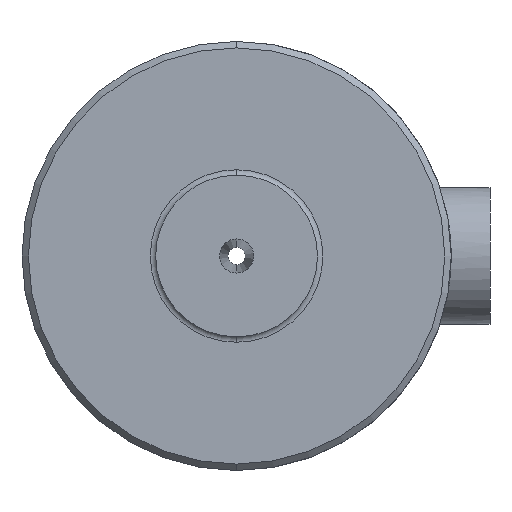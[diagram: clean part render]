
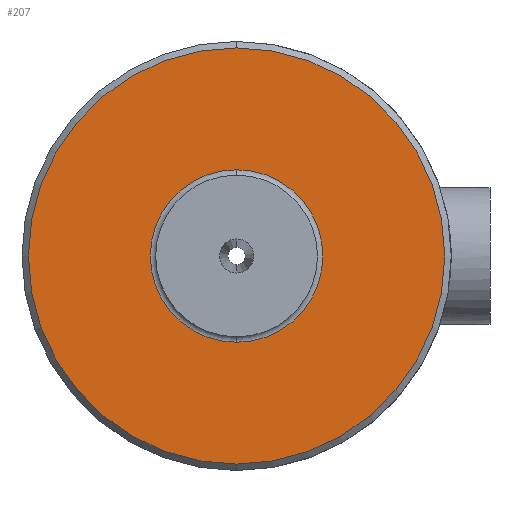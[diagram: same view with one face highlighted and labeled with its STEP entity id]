
A CAD part, front view. The second image highlights one B-rep face of the part: STEP entity #207.
In plain terms, the highlighted planar face has unit normal (0, -1, 0).
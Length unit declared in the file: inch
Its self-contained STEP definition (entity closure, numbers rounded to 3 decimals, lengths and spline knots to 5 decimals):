
#27 = VERTEX_POINT ( 'NONE', #322 ) ;
#42 = EDGE_CURVE ( 'NONE', #45, #27, #363, .T. ) ;
#45 = VERTEX_POINT ( 'NONE', #352 ) ;
#207 = ADVANCED_FACE ( 'NONE', ( #744, #743 ), #742, .T. ) ;
#208 = EDGE_LOOP ( 'NONE', ( #209, #260 ) ) ;
#209 = ORIENTED_EDGE ( 'NONE', *, *, #277, .T. ) ;
#260 = ORIENTED_EDGE ( 'NONE', *, *, #42, .T. ) ;
#261 = EDGE_LOOP ( 'NONE', ( #262, #263 ) ) ;
#262 = ORIENTED_EDGE ( 'NONE', *, *, #1202, .F. ) ;
#263 = ORIENTED_EDGE ( 'NONE', *, *, #264, .F. ) ;
#264 = EDGE_CURVE ( 'NONE', #1210, #1222, #847, .T. ) ;
#277 = EDGE_CURVE ( 'NONE', #27, #45, #827, .T. ) ;
#322 = CARTESIAN_POINT ( 'NONE',  ( 0., -1., 0.4 ) ) ;
#352 = CARTESIAN_POINT ( 'NONE',  ( 0., -1., -0.4 ) ) ;
#359 = DIRECTION ( 'NONE',  ( 0., 0., 1. ) ) ;
#360 = DIRECTION ( 'NONE',  ( 0., 1., 0. ) ) ;
#361 = CARTESIAN_POINT ( 'NONE',  ( 0., -1., 0. ) ) ;
#362 = AXIS2_PLACEMENT_3D ( 'NONE', #361, #360, #359 ) ;
#363 = CIRCLE ( 'NONE', #362, 0.4 ) ;
#737 = DIRECTION ( 'NONE',  ( 0., 0., -1. ) ) ;
#738 = DIRECTION ( 'NONE',  ( 0., -1., 0. ) ) ;
#739 = CARTESIAN_POINT ( 'NONE',  ( 0.965, -1., 0. ) ) ;
#741 = AXIS2_PLACEMENT_3D ( 'NONE', #739, #738, #737 ) ;
#742 = PLANE ( 'NONE',  #741 ) ;
#743 = FACE_OUTER_BOUND ( 'NONE', #261, .T. ) ;
#744 = FACE_BOUND ( 'NONE', #208, .T. ) ;
#827 = CIRCLE ( 'NONE', #888, 0.4 ) ;
#840 = DIRECTION ( 'NONE',  ( 0., 0., 1. ) ) ;
#841 = DIRECTION ( 'NONE',  ( 0., 1., 0. ) ) ;
#842 = CARTESIAN_POINT ( 'NONE',  ( 0., -1., 0. ) ) ;
#843 = AXIS2_PLACEMENT_3D ( 'NONE', #842, #841, #840 ) ;
#847 = CIRCLE ( 'NONE', #843, 0.965 ) ;
#885 = DIRECTION ( 'NONE',  ( 0., 0., 1. ) ) ;
#886 = DIRECTION ( 'NONE',  ( 0., 1., 0. ) ) ;
#887 = CARTESIAN_POINT ( 'NONE',  ( 0., -1., 0. ) ) ;
#888 = AXIS2_PLACEMENT_3D ( 'NONE', #887, #886, #885 ) ;
#922 = CIRCLE ( 'NONE', #981, 0.965 ) ;
#974 = CARTESIAN_POINT ( 'NONE',  ( 0., -1., -0.965 ) ) ;
#978 = DIRECTION ( 'NONE',  ( 0., 0., 1. ) ) ;
#979 = DIRECTION ( 'NONE',  ( 0., 1., 0. ) ) ;
#980 = CARTESIAN_POINT ( 'NONE',  ( 0., -1., 0. ) ) ;
#981 = AXIS2_PLACEMENT_3D ( 'NONE', #980, #979, #978 ) ;
#1011 = CARTESIAN_POINT ( 'NONE',  ( 0., -1., 0.965 ) ) ;
#1202 = EDGE_CURVE ( 'NONE', #1222, #1210, #922, .T. ) ;
#1210 = VERTEX_POINT ( 'NONE', #974 ) ;
#1222 = VERTEX_POINT ( 'NONE', #1011 ) ;
